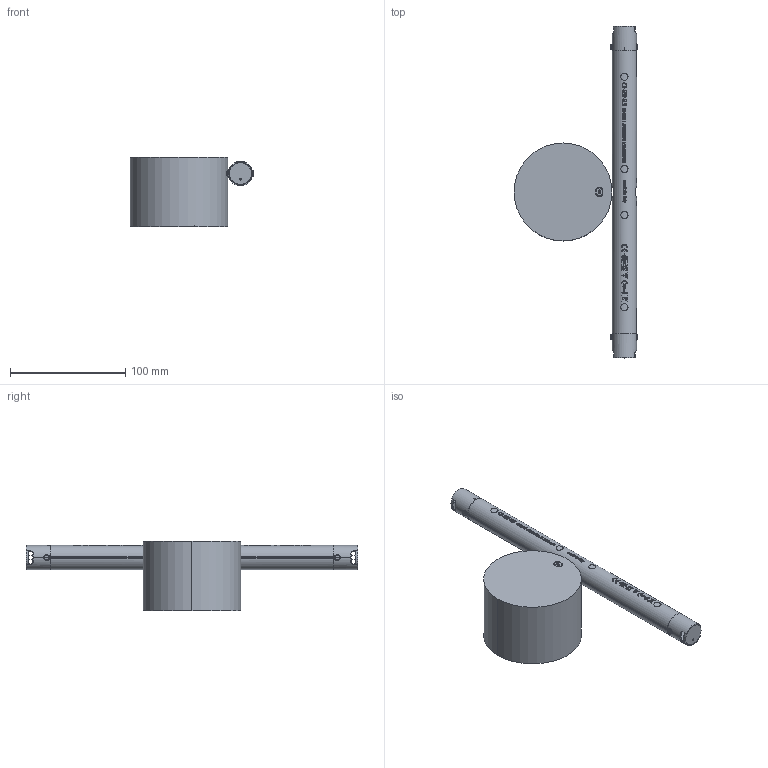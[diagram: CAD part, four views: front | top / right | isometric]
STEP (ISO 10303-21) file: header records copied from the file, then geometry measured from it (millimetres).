
FILE_DESCRIPTION((''),'2;1');
FILE_NAME('TENSONODO','2026-02-26T09:06:50',('Bonardi'),(''),'CREO PARAMETRIC BY PTC INC, 2025010','CREO PARAMETRIC BY PTC INC, 2025010','');
FILE_SCHEMA(('CONFIG_CONTROL_DESIGN'));
Length unit declared in the file: millimetre
Products named in the file (1): TENSONODO
Bounding box: 107.55 x 288 x 60 mm (x, y, z)
Surface area: 64065.4 mm2 (no closed solid volume)
Topology: 0 solids, 105 shells, 157 faces, 3183 edges, 3123 vertices
Faces by surface type: cylinder 123, plane 20, bspline 10, cone 4
Entity records: 42456 total; most frequent: CARTESIAN_POINT 26095, ORIENTED_EDGE 3275, EDGE_CURVE 3181, VERTEX_POINT 3123, B_SPLINE_CURVE_WITH_KNOTS 2259, DIRECTION 1615, AXIS2_PLACEMENT_3D 546, VECTOR 523
